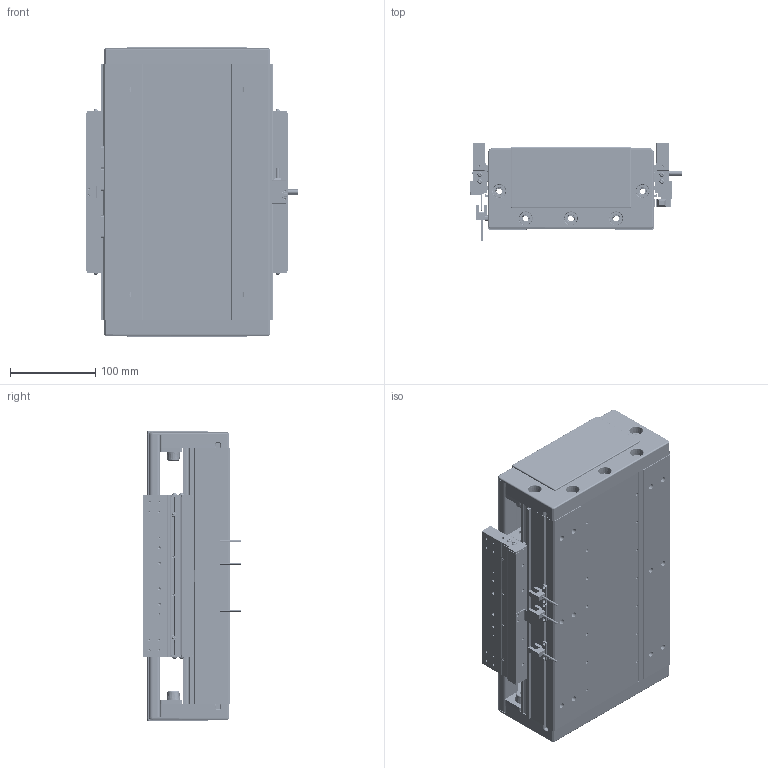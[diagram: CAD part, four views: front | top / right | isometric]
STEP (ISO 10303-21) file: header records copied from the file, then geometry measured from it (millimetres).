
FILE_DESCRIPTION (( 'STEP AP203' ), '1' );
FILE_NAME ('DA-C195-C2-T60-C010-0.2 眻盄萇儂.STEP', '2025-08-15T00:57:07', ( '' ), ( '' ), 'SwSTEP 2.0', 'SolidWorks 2019', '' );
FILE_SCHEMA (( 'CONFIG_CONTROL_DESIGN' ));
Length unit declared in the file: millimetre
Products named in the file (12): PM-T45ㄗ侂狟ㄘ; IU-CU195-L 菁釱絳寢; MS200 棠掑喜S315-T240; CU195-C2賑輸-俋楷; 66156-0001-003-00 裔啣; 66156-0001-005-00 光电感应片(默认); 葩璃 DA95-GT-T-00; LMT黍杅芛; IU-CU195-L-00 菁釱(L300); DA-C195-C2-T60-C010-0.2 眻盄萇儂; DA95-HXJ-00 遣喳砎蝶; DA195-DG-H-00  端盖（压铸镂空版）
Assembly tree (20 placements, depth 3):
  DA-C195-C2-T60-C010-0.2 眻盄萇儂
    IU-CU195-L 菁釱絳寢
      IU-CU195-L-00 菁釱(L300)
      葩璃 DA95-GT-T-00  x4
    LMT黍杅芛
    MS200 棠掑喜S315-T240
    PM-T45ㄗ侂狟ㄘ  x3
    66156-0001-005-00 光电感应片(默认)
    DA195-DG-H-00  端盖（压铸镂空版）  x2
    DA95-HXJ-00 遣喳砎蝶  x4
    66156-0001-003-00 裔啣
    CU195-C2賑輸-俋楷
Bounding box: 248 x 115.6 x 340 mm (x, y, z)
Volume: 3419301.3 mm3; surface area: 947883.2 mm2
Topology: 58 solids, 130 shells, 4905 faces, 12092 edges, 7273 vertices
Faces by surface type: cylinder 1933, plane 1622, bspline 710, cone 560, torus 44, sphere 36
Entity records: 127303 total; most frequent: CARTESIAN_POINT 38159, ORIENTED_EDGE 18238, DIRECTION 18128, EDGE_CURVE 9119, AXIS2_PLACEMENT_3D 6719, VERTEX_POINT 5703, LINE 4690, VECTOR 4690
